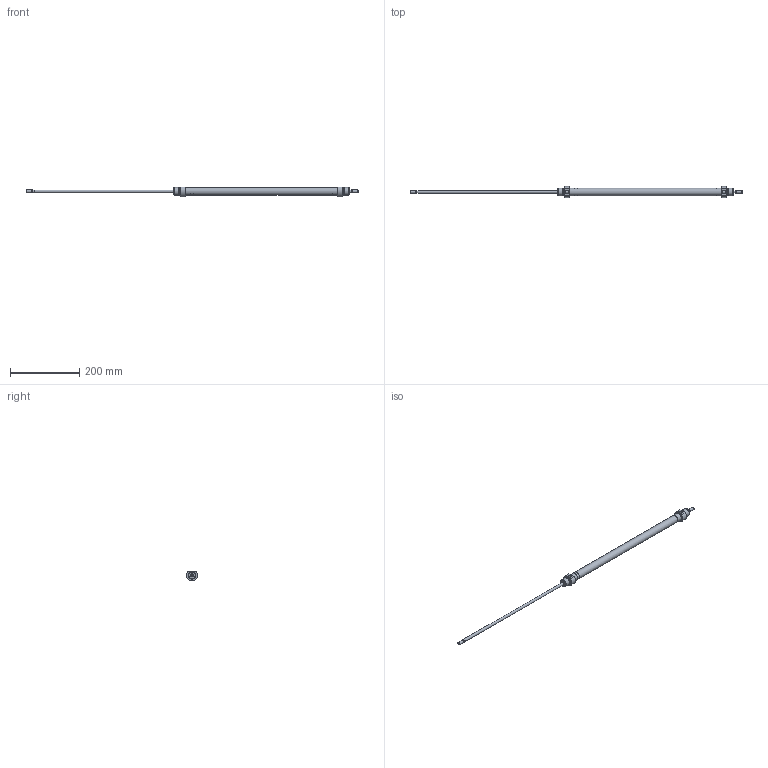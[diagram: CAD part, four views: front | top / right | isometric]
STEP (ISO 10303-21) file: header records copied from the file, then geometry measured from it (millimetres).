
FILE_DESCRIPTION( ( 'STEP AP203' ), '1' );
FILE_NAME( '//expscmdclustefs.cadenas.external/client_exchange/iodir/jobs/output/wkb68462957_no0/STEP/M101-020-0400--__0__2_03.stp', ' ', ( ' ' ), ( ' ' ), 'PSStep 15.0.47', 'PARTsolutions', ' ' );
FILE_SCHEMA( ( 'CONFIG_CONTROL_DESIGN' ) );
Length unit declared in the file: millimetre
Products named in the file (3): M101-020-0400-- [0]; HI_M101-020-0400---[0]-z; HI_M101-020-0400---[0]-k
Assembly tree (2 placements, depth 2):
  M101-020-0400-- [0]
    HI_M101-020-0400---[0]-z
    HI_M101-020-0400---[0]-k
Bounding box: 956 x 32 x 28 mm (x, y, z)
Volume: 113582.7 mm3; surface area: 91376.8 mm2
Topology: 2 solids, 2 shells, 65 faces, 129 edges, 80 vertices
Faces by surface type: plane 26, cylinder 23, cone 14, torus 2
Full cylindrical faces by diameter (mm): 6.466 x2, 8 x6, 8.566 x2, 20 x2, 20.16 x4, 21.6 x1, 22 x4
Entity records: 1702 total; most frequent: CARTESIAN_POINT 356, DIRECTION 280, ORIENTED_EDGE 184, AXIS2_PLACEMENT_3D 128, EDGE_LOOP 116, EDGE_CURVE 92, FACE_OUTER_BOUND 88, VERTEX_POINT 76
